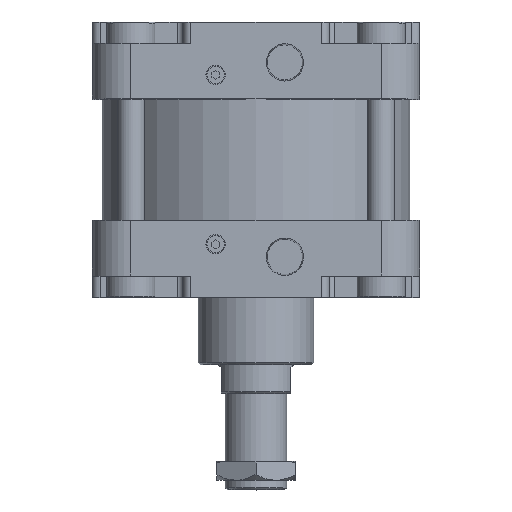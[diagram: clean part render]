
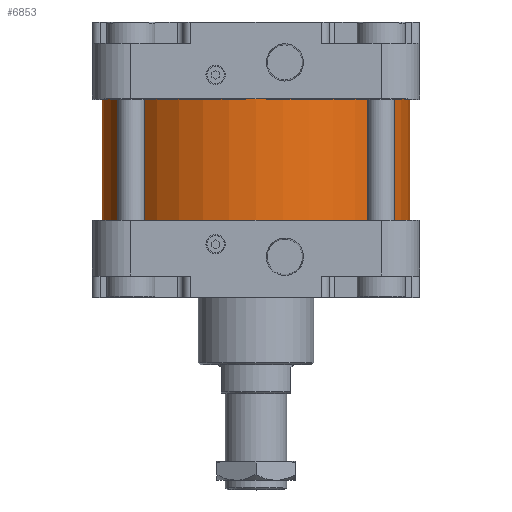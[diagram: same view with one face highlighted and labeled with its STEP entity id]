
A CAD part, top view. The second image highlights one B-rep face of the part: STEP entity #6853.
In plain terms, the highlighted cylindrical face has radius 80 mm (diameter 160 mm), a full revolution.
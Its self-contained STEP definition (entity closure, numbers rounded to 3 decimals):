
#203=CYLINDRICAL_SURFACE('',#7388,80.);
#2123=ORIENTED_EDGE('',*,*,#2935,.T.);
#2124=ORIENTED_EDGE('',*,*,#2936,.F.);
#2935=EDGE_CURVE('',#3446,#3446,#3753,.T.);
#2936=EDGE_CURVE('',#3447,#3447,#3754,.T.);
#3446=VERTEX_POINT('',#10199);
#3447=VERTEX_POINT('',#10201);
#3753=CIRCLE('',#7389,80.);
#3754=CIRCLE('',#7390,80.);
#4074=EDGE_LOOP('',(#2123));
#4075=EDGE_LOOP('',(#2124));
#4456=FACE_BOUND('',#4074,.T.);
#4457=FACE_BOUND('',#4075,.T.);
#6853=ADVANCED_FACE('',(#4456,#4457),#203,.T.);
#7388=AXIS2_PLACEMENT_3D('',#10197,#8728,#8729);
#7389=AXIS2_PLACEMENT_3D('',#10198,#8730,#8731);
#7390=AXIS2_PLACEMENT_3D('',#10200,#8732,#8733);
#8728=DIRECTION('',(0.,-1.,0.));
#8729=DIRECTION('',(0.,0.,-1.));
#8730=DIRECTION('',(0.,-1.,0.));
#8731=DIRECTION('',(0.,0.,-1.));
#8732=DIRECTION('',(0.,-1.,0.));
#8733=DIRECTION('',(0.,0.,-1.));
#10197=CARTESIAN_POINT('',(0.,17.5,0.));
#10198=CARTESIAN_POINT('',(0.,31.5,0.));
#10199=CARTESIAN_POINT('',(0.,31.5,-80.));
#10200=CARTESIAN_POINT('',(0.,-31.5,0.));
#10201=CARTESIAN_POINT('',(0.,-31.5,-80.));
